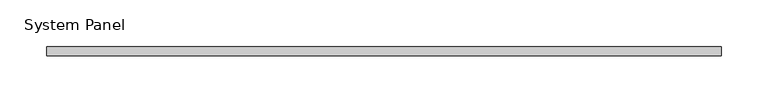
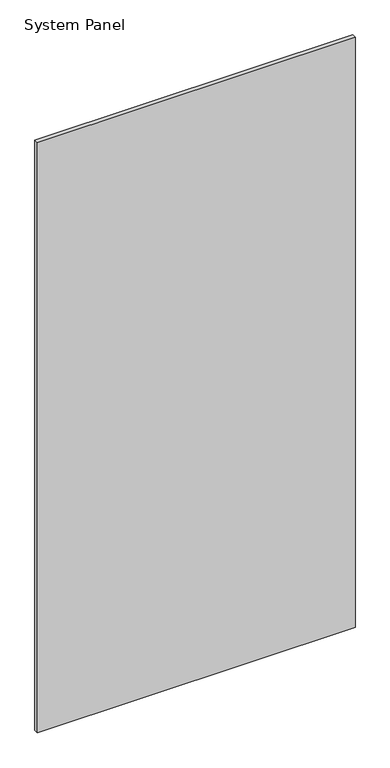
"""IFC4 building model written with IfcOpenShell, lengths in millimetres: plate geometry, System Panel : стекло_смещение_0."""

from ifc_helpers import new_model, si_unit, origin, origin_with_axes, place, context, project, spatial, polyline, outline, extrude, source, transform, mapped, element, save


def system_panel_7e299fd0(model_context):
    return source(origin(), model_context, "Body", "SweptSolid", [
        extrude(outline(polyline([(362.5, -5.0), (-362.5, -5.0), (-362.5, 5.0), (362.5, 5.0), (362.5, -5.0)])), origin_with_axes(), (0.0, 0.0, 1.0), 1425.0),
    ])


if __name__ == "__main__":
    model = new_model("IFC4")
    model_context = context("Model", 3, world=origin())
    ifc_project = project(units=[si_unit("LENGTHUNIT", "METRE", prefix="MILLI")], contexts=[model_context])
    site = spatial("IfcSite", under=ifc_project)
    building = spatial("IfcBuilding", under=site)
    placement = place(None, origin())
    system_panel_shape = system_panel_7e299fd0(model_context)
    element("IfcPlate", 1, ObjectType="System Panel : стекло_смещение_0", at=placement, inside=building, context=model_context, shape_type="MappedRepresentation", body=[
        mapped(system_panel_shape, transform((0.0, 0.0, 0.0), x_axis=(1.0, 0.0, 0.0), y_axis=(0.0, 1.0, 0.0), z_axis=(0.0, 0.0, 1.0))),
    ])
    save(model, "model.ifc")
